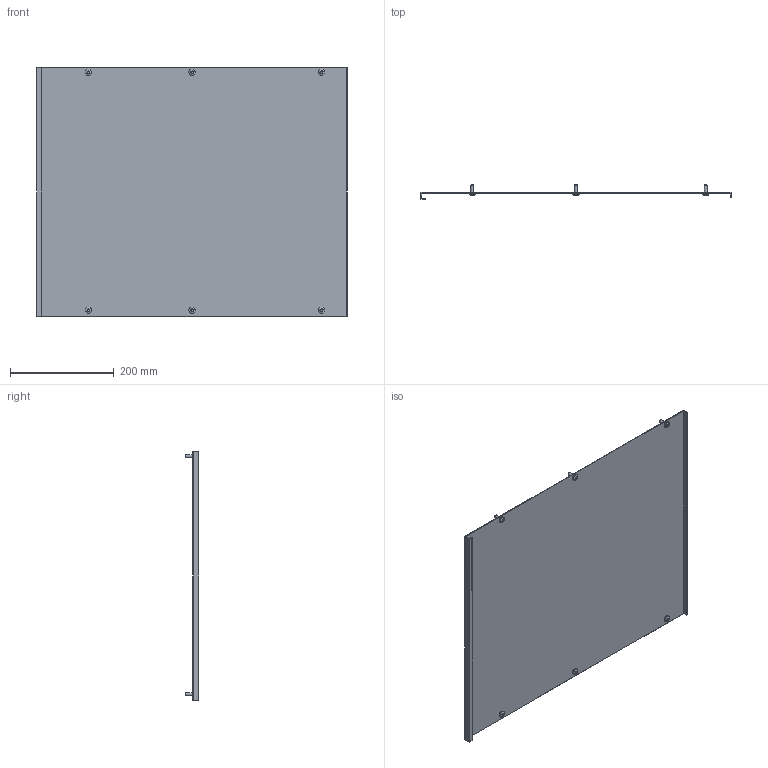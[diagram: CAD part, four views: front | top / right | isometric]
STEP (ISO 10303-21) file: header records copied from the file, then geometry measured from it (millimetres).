
FILE_DESCRIPTION (( 'STEP AP214' ), '1' );
FILE_NAME ('FO-00-PVS-060-060 Ïëàñòðîí ãëóõîé âíóòðåííèé 600õ600.STEP', '2025-09-30T07:42:01', ( '' ), ( '' ), 'SwSTEP 2.0', 'SolidWorks 2023', '' );
FILE_SCHEMA (( 'AUTOMOTIVE_DESIGN' ));
Length unit declared in the file: millimetre
Products named in the file (3): FO-00-PVS-060-060 Пластрон глухой внутренний 600х600; Винт M6x16 060-060 IEK
Assembly tree (3 placements, depth 2):
  FO-00-PVS-060-060 Пластрон глухой внутренний 600х600
    FO-00-PVS-060-060 Пластрон глухой внутренний 600х600
    Винт M6x16 060-060 IEK  x2
Bounding box: 598 x 27 x 479 mm (x, y, z)
Volume: 452610.8 mm3; surface area: 604674.7 mm2
Topology: 7 solids, 7 shells, 214 faces, 558 edges, 364 vertices
Faces by surface type: cylinder 132, plane 52, cone 18, bspline 12
Entity records: 4464 total; most frequent: CARTESIAN_POINT 1022, ORIENTED_EDGE 708, DIRECTION 692, EDGE_CURVE 354, AXIS2_PLACEMENT_3D 256, VERTEX_POINT 232, LINE 180, VECTOR 180
